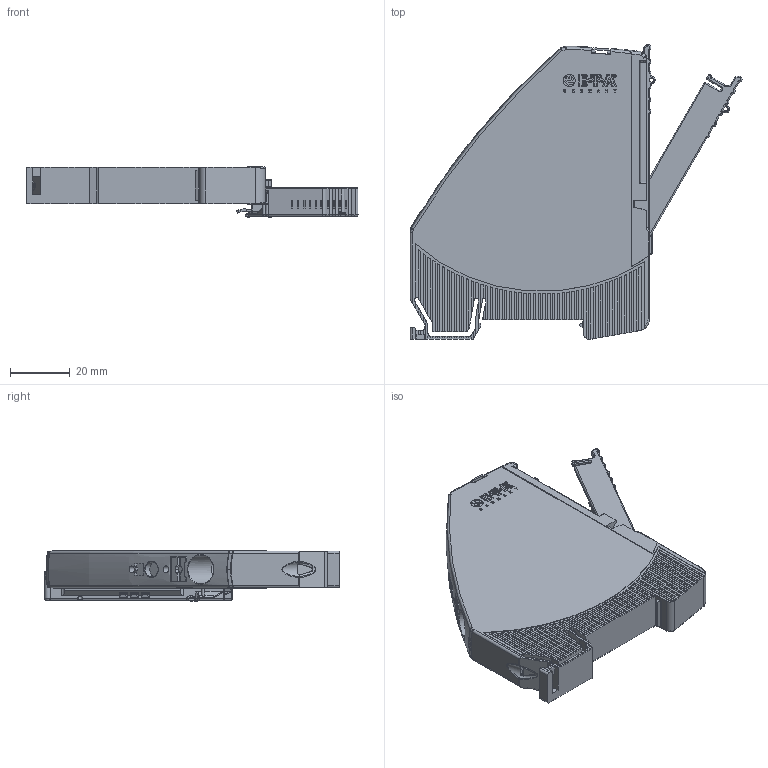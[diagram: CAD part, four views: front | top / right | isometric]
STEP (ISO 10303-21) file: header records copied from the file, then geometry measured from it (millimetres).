
FILE_DESCRIPTION((''),'2;1');
FILE_NAME('T-EM12-T00-300-GND_ASM','2017-06-08T',('hroth'),(''),'PRO/ENGINEER BY PARAMETRIC TECHNOLOGY CORPORATION, 2014200','PRO/ENGINEER BY PARAMETRIC TECHNOLOGY CORPORATION, 2014200','');
FILE_SCHEMA(('AUTOMOTIVE_DESIGN { 1 0 10303 214 1 1 1 1 }'));
Products named in the file (3): T-EM12-T00-300-GND_GEH; T-PM12-T00_HEB_GND_1K; T-EM12-T00-300-GND_ASM
Assembly tree (3 placements, depth 2):
  T-EM12-T00-300-GND_ASM
    T-EM12-T00-300-GND_GEH
    T-PM12-T00_HEB_GND_1K  x2
Bounding box: 110.9 x 98.5 x 16.9 mm (x, y, z)
Volume: 72330.7 mm3; surface area: 26786.2 mm2
Topology: 3 solids, 3 shells, 1992 faces, 5482 edges, 3533 vertices
Faces by surface type: plane 1249, cylinder 486, torus 101, bspline 75, extrusion 41, cone 24, sphere 16
Entity records: 61991 total; most frequent: CARTESIAN_POINT 16141, ORIENTED_EDGE 9038, DIRECTION 8065, EDGE_CURVE 4519, VECTOR 3319, LINE 3278, VERTEX_POINT 2943, AXIS2_PLACEMENT_3D 2373
